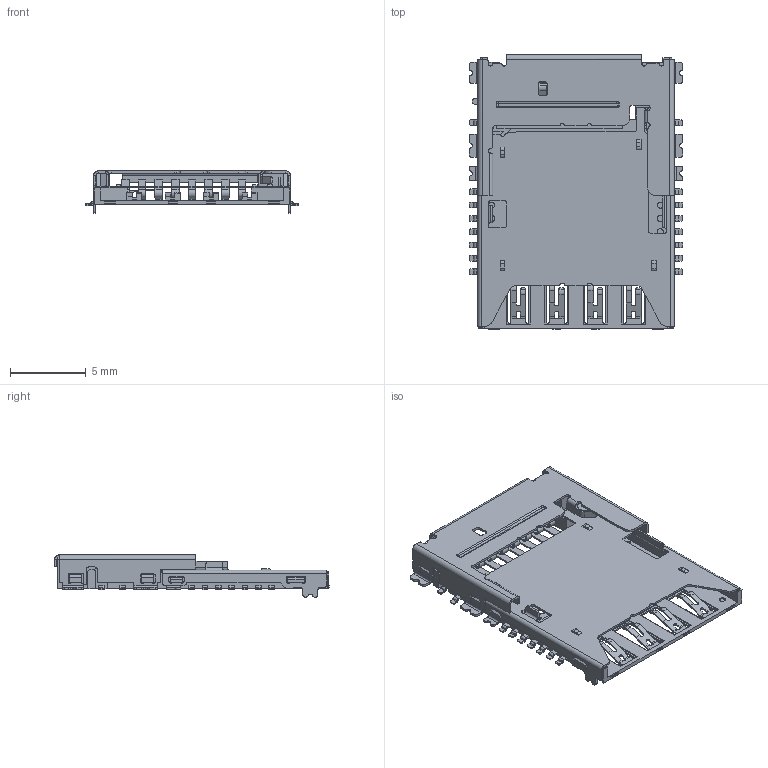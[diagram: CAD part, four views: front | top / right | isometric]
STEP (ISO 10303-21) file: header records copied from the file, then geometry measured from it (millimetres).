
FILE_DESCRIPTION(('CATIA V5 STEP Exchange'),'2;1');
FILE_NAME('F:\Work File\客户报告、资料、报价单\爱特姆\1051401AR002(MICRO SIM +TF CARD 二合一 带侦测PIN)\3D-1051401AR002-20201209.stp','2020-12-09T03:48:11+00:00',('none'),('none'),'CATIA Version 5 Release 17 (IN-10)','CATIA V5 STEP AP203','none');
FILE_SCHEMA(('CONFIG_CONTROL_DESIGN'));
Products named in the file (1): _MICRO_SIM_1051401AR002
Bounding box: 14.1 x 18.15 x 2.79 mm (x, y, z)
Volume: 65.6 mm3; surface area: 1157.6 mm2
Topology: 1 solids, 3 shells, 2216 faces, 6085 edges, 4019 vertices
Faces by surface type: plane 1373, cylinder 796, extrusion 35, bspline 8, sphere 4
Entity records: 79474 total; most frequent: CARTESIAN_POINT 26448, ORIENTED_EDGE 12144, DIRECTION 8759, EDGE_CURVE 6085, VECTOR 4201, LINE 4166, VERTEX_POINT 4019, AXIS2_PLACEMENT_3D 2549
